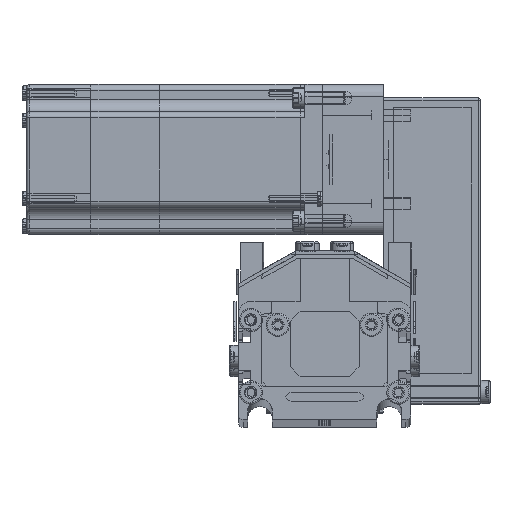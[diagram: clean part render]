
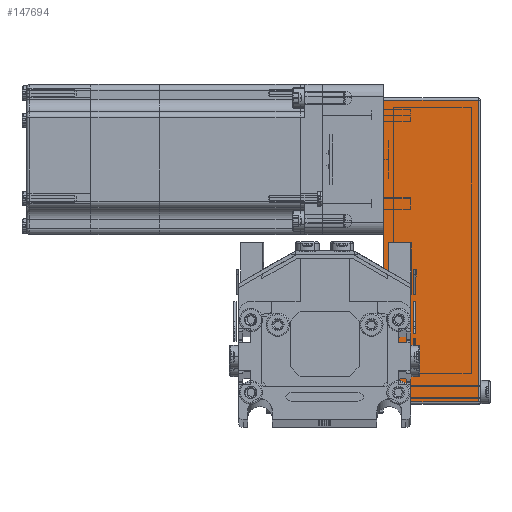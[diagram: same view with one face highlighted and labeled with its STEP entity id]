
A CAD part, top view. The second image highlights one B-rep face of the part: STEP entity #147694.
In plain terms, the highlighted planar face has unit normal (0, 0, 1) as drawn and (0, 1, 0) by its records, which use the part's own axes.
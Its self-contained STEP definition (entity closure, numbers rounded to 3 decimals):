
#22589 = DIRECTION ( 'NONE',  ( -1., 0., 0. ) ) ;
#22590 = VECTOR ( 'NONE', #22589, 1000. ) ;
#22610 = CARTESIAN_POINT ( 'NONE',  ( -50., 25., 0. ) ) ;
#22611 = LINE ( 'NONE', #22610, #22590 ) ;
#22718 = VECTOR ( 'NONE', #22739, 1000. ) ;
#22732 = LINE ( 'NONE', #22740, #22718 ) ;
#22739 = DIRECTION ( 'NONE',  ( 0., 0., 1. ) ) ;
#22740 = CARTESIAN_POINT ( 'NONE',  ( -49., 25., 39.5 ) ) ;
#22754 = CARTESIAN_POINT ( 'NONE',  ( 73.5, 25., 0. ) ) ;
#22757 = CARTESIAN_POINT ( 'NONE',  ( -49., 25., 0. ) ) ;
#22785 = DIRECTION ( 'NONE',  ( 1., 0., 0. ) ) ;
#22786 = VECTOR ( 'NONE', #22785, 1000. ) ;
#22787 = CARTESIAN_POINT ( 'NONE',  ( 74.5, 25., 38.5 ) ) ;
#22790 = DIRECTION ( 'NONE',  ( 0., 0., -1. ) ) ;
#22794 = CARTESIAN_POINT ( 'NONE',  ( -49., 25., 38.5 ) ) ;
#22795 = AXIS2_PLACEMENT_3D ( 'NONE', #22801, #22802, #22790 ) ;
#22799 = PLANE ( 'NONE',  #22795 ) ;
#22800 = FACE_OUTER_BOUND ( 'NONE', #147794, .T. ) ;
#22801 = CARTESIAN_POINT ( 'NONE',  ( -50., 25., 39.5 ) ) ;
#22802 = DIRECTION ( 'NONE',  ( 0., -1., 0. ) ) ;
#22808 = LINE ( 'NONE', #22787, #22786 ) ;
#22873 = CARTESIAN_POINT ( 'NONE',  ( 73.5, 25., 38.5 ) ) ;
#22908 = DIRECTION ( 'NONE',  ( 0., 0., -1. ) ) ;
#22909 = VECTOR ( 'NONE', #22908, 1000. ) ;
#22915 = CARTESIAN_POINT ( 'NONE',  ( 73.5, 25., 39.5 ) ) ;
#22916 = LINE ( 'NONE', #22915, #22909 ) ;
#147549 = EDGE_CURVE ( 'NONE', #147668, #147676, #22611, .T. ) ;
#147631 = EDGE_CURVE ( 'NONE', #147676, #147697, #22732, .T. ) ;
#147668 = VERTEX_POINT ( 'NONE', #22754 ) ;
#147676 = VERTEX_POINT ( 'NONE', #22757 ) ;
#147694 = ADVANCED_FACE ( 'NONE', ( #22800 ), #22799, .F. ) ;
#147696 = ORIENTED_EDGE ( 'NONE', *, *, #147549, .T. ) ;
#147697 = VERTEX_POINT ( 'NONE', #22794 ) ;
#147699 = ORIENTED_EDGE ( 'NONE', *, *, #147631, .T. ) ;
#147701 = EDGE_CURVE ( 'NONE', #147697, #147786, #22808, .T. ) ;
#147703 = ORIENTED_EDGE ( 'NONE', *, *, #147701, .T. ) ;
#147732 = ORIENTED_EDGE ( 'NONE', *, *, #147790, .T. ) ;
#147786 = VERTEX_POINT ( 'NONE', #22873 ) ;
#147790 = EDGE_CURVE ( 'NONE', #147786, #147668, #22916, .T. ) ;
#147794 = EDGE_LOOP ( 'NONE', ( #147696, #147699, #147703, #147732 ) ) ;
